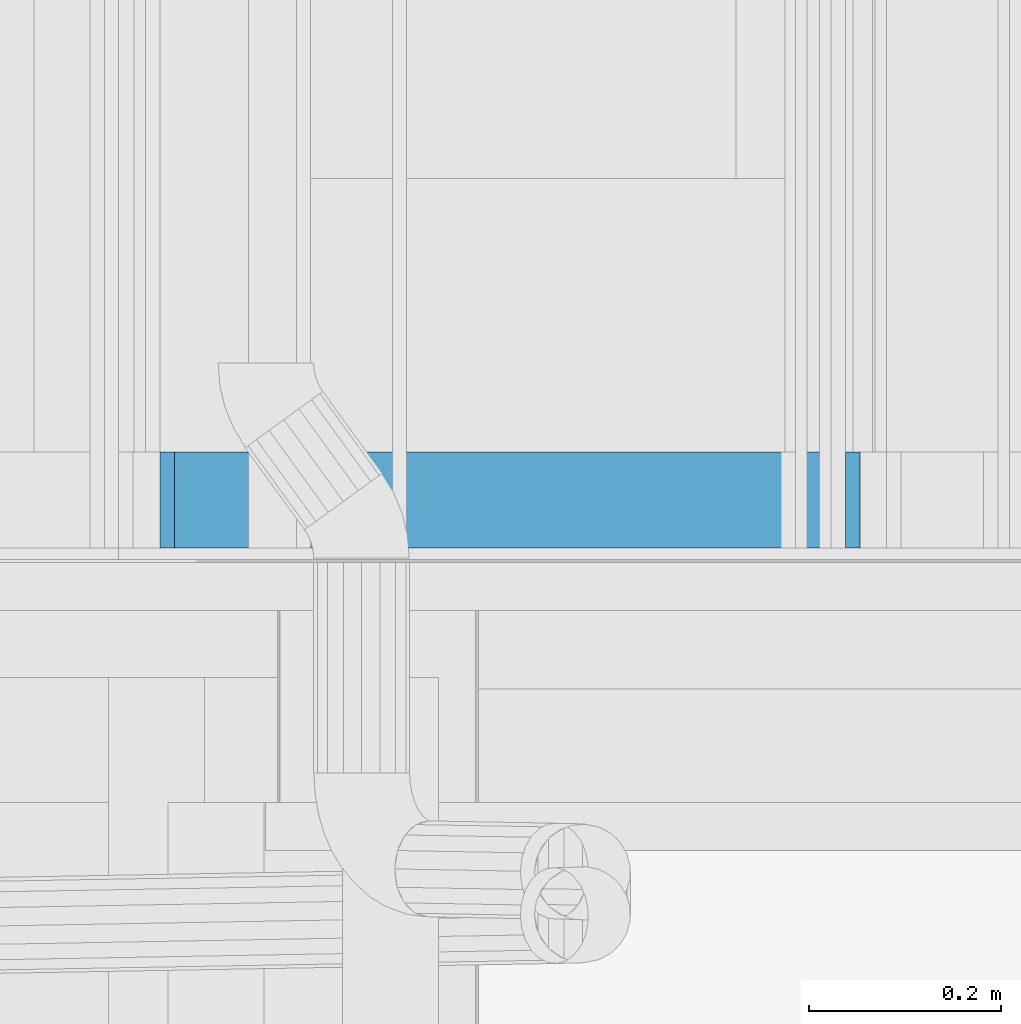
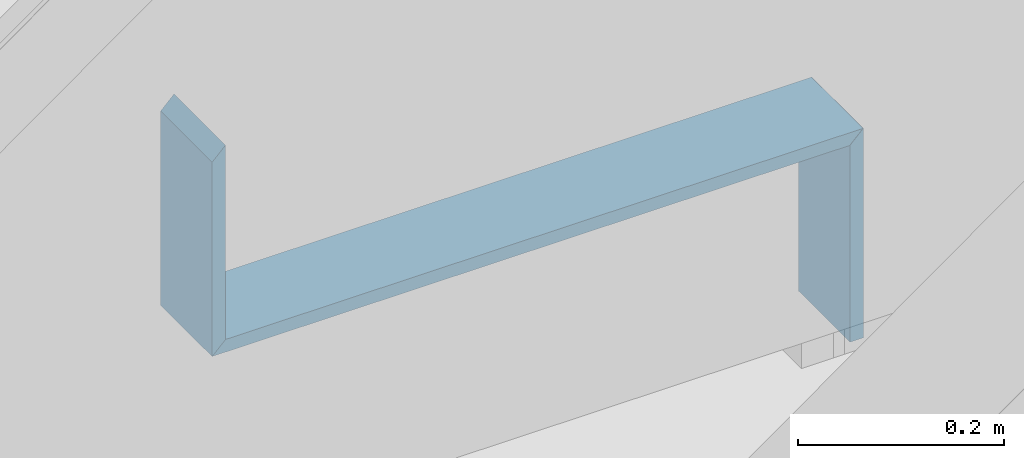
# One storey, part 187 of 583: 3 building element parts, 3 elements without a shape of their own.
"""IFC2X3 building model written with IfcOpenShell, lengths in metres."""

from ifc_helpers import new_model, entity, si_unit, converted_unit, derived_unit, money_unit, direction, frame, origin_with_axes, place, context, subcontext, project, spatial, polyline, outline, extrude, material, type_object, element, aggregate, save


model = new_model("IFC2X3")

# Units and contexts
model_context = context("Model", 3, precision=1e-05, world=origin_with_axes(), true_north=direction((0.0, 1.0)))
body_context = subcontext(model_context, "Body", "Model", "MODEL_VIEW", scale=1.0)
ifc_project = project(units=[si_unit("LENGTHUNIT", "METRE"), si_unit("AREAUNIT", "SQUARE_METRE"), si_unit("VOLUMEUNIT", "CUBIC_METRE"), si_unit("ABSORBEDDOSEUNIT", "GRAY"), si_unit("AMOUNTOFSUBSTANCEUNIT", "MOLE"), si_unit("DOSEEQUIVALENTUNIT", "SIEVERT"), si_unit("ELECTRICCAPACITANCEUNIT", "FARAD"), si_unit("ELECTRICCHARGEUNIT", "COULOMB"), si_unit("ELECTRICCONDUCTANCEUNIT", "SIEMENS"), si_unit("ELECTRICCURRENTUNIT", "AMPERE"), si_unit("ELECTRICRESISTANCEUNIT", "OHM"), si_unit("ELECTRICVOLTAGEUNIT", "VOLT"), si_unit("ENERGYUNIT", "JOULE"), si_unit("FORCEUNIT", "NEWTON"), si_unit("FREQUENCYUNIT", "HERTZ"), si_unit("ILLUMINANCEUNIT", "LUX"), si_unit("INDUCTANCEUNIT", "HENRY"), si_unit("LUMINOUSFLUXUNIT", "LUMEN"), si_unit("LUMINOUSINTENSITYUNIT", "CANDELA"), si_unit("MAGNETICFLUXDENSITYUNIT", "TESLA"), si_unit("MAGNETICFLUXUNIT", "WEBER"), si_unit("MASSUNIT", "GRAM"), converted_unit("PLANEANGLEUNIT", "degree", entity("IfcReal", 0.0174532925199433), si_unit("PLANEANGLEUNIT", "RADIAN"), dimensions=[0, 0, 0, 0, 0, 0, 0]), si_unit("POWERUNIT", "WATT"), si_unit("PRESSUREUNIT", "PASCAL"), si_unit("RADIOACTIVITYUNIT", "BECQUEREL"), si_unit("SOLIDANGLEUNIT", "STERADIAN"), si_unit("THERMODYNAMICTEMPERATUREUNIT", "KELVIN"), si_unit("TIMEUNIT", "SECOND"), derived_unit("ACCELERATIONUNIT", [(si_unit("LENGTHUNIT", "METRE"), 1), (si_unit("TIMEUNIT", "SECOND"), -2)]), derived_unit("ANGULARVELOCITYUNIT", [(converted_unit("PLANEANGLEUNIT", "degree", entity("IfcReal", 0.0174532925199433), si_unit("PLANEANGLEUNIT", "RADIAN"), dimensions=[0, 0, 0, 0, 0, 0, 0]), 1), (si_unit("TIMEUNIT", "SECOND"), -1)]), derived_unit("CURVATUREUNIT", [(converted_unit("PLANEANGLEUNIT", "degree", entity("IfcReal", 0.0174532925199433), si_unit("PLANEANGLEUNIT", "RADIAN"), dimensions=[0, 0, 0, 0, 0, 0, 0]), 1), (si_unit("LENGTHUNIT", "METRE"), -1)]), derived_unit("DYNAMICVISCOSITYUNIT", [(si_unit("PRESSUREUNIT", "PASCAL"), 1), (si_unit("TIMEUNIT", "SECOND"), 1)]), derived_unit("HEATFLUXDENSITYUNIT", [(si_unit("POWERUNIT", "WATT"), 1), (si_unit("LENGTHUNIT", "METRE"), -2)]), derived_unit("HEATINGVALUEUNIT", [(si_unit("ENERGYUNIT", "JOULE"), 1), (si_unit("MASSUNIT", "GRAM"), -1)]), derived_unit("INTEGERCOUNTRATEUNIT", [(si_unit("TIMEUNIT", "SECOND"), -1)]), derived_unit("IONCONCENTRATIONUNIT", [(si_unit("MASSUNIT", "GRAM"), 1), (si_unit("VOLUMEUNIT", "CUBIC_METRE"), -1)]), derived_unit("ISOTHERMALMOISTURECAPACITYUNIT", [(si_unit("VOLUMEUNIT", "CUBIC_METRE"), 1), (si_unit("MASSUNIT", "GRAM"), -1)]), derived_unit("KINEMATICVISCOSITYUNIT", [(si_unit("AREAUNIT", "SQUARE_METRE"), 1), (si_unit("TIMEUNIT", "SECOND"), -1)]), derived_unit("LINEARFORCEUNIT", [(si_unit("FORCEUNIT", "NEWTON"), 1), (si_unit("LENGTHUNIT", "METRE"), -1)]), derived_unit("LINEARMOMENTUNIT", [(si_unit("FORCEUNIT", "NEWTON"), 1), (si_unit("LENGTHUNIT", "METRE"), -1)]), derived_unit("LINEARSTIFFNESSUNIT", [(si_unit("FORCEUNIT", "NEWTON"), 1), (si_unit("LENGTHUNIT", "METRE"), -1)]), derived_unit("LINEARVELOCITYUNIT", [(si_unit("LENGTHUNIT", "METRE"), 1), (si_unit("TIMEUNIT", "SECOND"), -1)]), derived_unit("LUMINOUSINTENSITYDISTRIBUTIONUNIT", [(si_unit("LUMINOUSINTENSITYUNIT", "CANDELA"), 1), (si_unit("LUMINOUSFLUXUNIT", "LUMEN"), -1)]), derived_unit("MASSDENSITYUNIT", [(si_unit("MASSUNIT", "GRAM"), 1), (si_unit("VOLUMEUNIT", "CUBIC_METRE"), -1)]), derived_unit("MASSFLOWRATEUNIT", [(si_unit("MASSUNIT", "GRAM"), 1), (si_unit("TIMEUNIT", "SECOND"), -1)]), derived_unit("MASSPERLENGTHUNIT", [(si_unit("MASSUNIT", "GRAM"), 1), (si_unit("LENGTHUNIT", "METRE"), -1)]), derived_unit("MODULUSOFELASTICITYUNIT", [(si_unit("FORCEUNIT", "NEWTON"), 1), (si_unit("AREAUNIT", "SQUARE_METRE"), -1)]), derived_unit("MODULUSOFLINEARSUBGRADEREACTIONUNIT", [(si_unit("FORCEUNIT", "NEWTON"), 1), (si_unit("LENGTHUNIT", "METRE"), -2)]), derived_unit("MODULUSOFROTATIONALSUBGRADEREACTIONUNIT", [(si_unit("FORCEUNIT", "NEWTON"), 1), (si_unit("LENGTHUNIT", "METRE"), 1)]), derived_unit("MODULUSOFSUBGRADEREACTIONUNIT", [(si_unit("FORCEUNIT", "NEWTON"), 1), (si_unit("VOLUMEUNIT", "CUBIC_METRE"), -1)]), derived_unit("MOISTUREDIFFUSIVITYUNIT", [(si_unit("VOLUMEUNIT", "CUBIC_METRE"), 1), (si_unit("TIMEUNIT", "SECOND"), -1)]), derived_unit("MOLECULARWEIGHTUNIT", [(si_unit("MASSUNIT", "GRAM"), 1), (si_unit("AMOUNTOFSUBSTANCEUNIT", "MOLE"), -1)]), derived_unit("PLANARFORCEUNIT", [(si_unit("FORCEUNIT", "NEWTON"), 1), (si_unit("LENGTHUNIT", "METRE"), -2)]), derived_unit("ROTATIONALFREQUENCYUNIT", [(si_unit("TIMEUNIT", "SECOND"), -1)]), derived_unit("ROTATIONALMASSUNIT", [(si_unit("MASSUNIT", "GRAM"), 1), (si_unit("LENGTHUNIT", "METRE"), 2)]), derived_unit("ROTATIONALSTIFFNESSUNIT", [(si_unit("FORCEUNIT", "NEWTON"), 1), (si_unit("LENGTHUNIT", "METRE"), 1), (converted_unit("PLANEANGLEUNIT", "degree", entity("IfcReal", 0.0174532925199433), si_unit("PLANEANGLEUNIT", "RADIAN"), dimensions=[0, 0, 0, 0, 0, 0, 0]), -1)]), derived_unit("SECTIONAREAINTEGRALUNIT", [(si_unit("LENGTHUNIT", "METRE"), 5)]), derived_unit("SECTIONMODULUSUNIT", [(si_unit("LENGTHUNIT", "METRE"), 3)]), derived_unit("SHEARMODULUSUNIT", [(si_unit("FORCEUNIT", "NEWTON"), 1), (si_unit("AREAUNIT", "SQUARE_METRE"), -1)]), derived_unit("SOUNDPOWERUNIT", [(si_unit("ENERGYUNIT", "JOULE"), 1), (si_unit("TIMEUNIT", "SECOND"), -1)]), derived_unit("SPECIFICHEATCAPACITYUNIT", [(si_unit("FORCEUNIT", "NEWTON"), 1), (si_unit("MASSUNIT", "GRAM"), -1), (si_unit("THERMODYNAMICTEMPERATUREUNIT", "KELVIN"), -1)]), derived_unit("TEMPERATUREGRADIENTUNIT", [(si_unit("THERMODYNAMICTEMPERATUREUNIT", "KELVIN"), 1), (si_unit("LENGTHUNIT", "METRE"), -1)]), derived_unit("THERMALADMITTANCEUNIT", [(si_unit("POWERUNIT", "WATT"), 1), (si_unit("AREAUNIT", "SQUARE_METRE"), -1), (si_unit("THERMODYNAMICTEMPERATUREUNIT", "KELVIN"), -1)]), derived_unit("THERMALCONDUCTANCEUNIT", [(si_unit("POWERUNIT", "WATT"), 1), (si_unit("LENGTHUNIT", "METRE"), -1), (si_unit("THERMODYNAMICTEMPERATUREUNIT", "KELVIN"), -1)]), derived_unit("THERMALEXPANSIONCOEFFICIENTUNIT", [(si_unit("THERMODYNAMICTEMPERATUREUNIT", "KELVIN"), -1)]), derived_unit("THERMALRESISTANCEUNIT", [(si_unit("AREAUNIT", "SQUARE_METRE"), 1), (si_unit("POWERUNIT", "WATT"), -1)]), derived_unit("THERMALTRANSMITTANCEUNIT", [(si_unit("POWERUNIT", "WATT"), 1), (si_unit("AREAUNIT", "SQUARE_METRE"), -1), (si_unit("THERMODYNAMICTEMPERATUREUNIT", "KELVIN"), -1)]), derived_unit("TORQUEUNIT", [(si_unit("FORCEUNIT", "NEWTON"), 1), (si_unit("LENGTHUNIT", "METRE"), 1)]), derived_unit("VAPORPERMEABILITYUNIT", [(si_unit("MASSUNIT", "GRAM"), 1), (si_unit("TIMEUNIT", "SECOND"), -1)]), derived_unit("VOLUMETRICFLOWRATEUNIT", [(si_unit("VOLUMEUNIT", "CUBIC_METRE"), 1), (si_unit("TIMEUNIT", "SECOND"), -1)]), derived_unit("WARPINGCONSTANTUNIT", [(si_unit("LENGTHUNIT", "METRE"), 6)]), derived_unit("WARPINGMOMENTUNIT", [(si_unit("FORCEUNIT", "NEWTON"), 1), (si_unit("LENGTHUNIT", "METRE"), 2)]), money_unit("GBP")], contexts=[model_context])

# Site, building, storey
site_placement = place(None, origin_with_axes())
site = spatial("IfcSite", under=ifc_project, at=site_placement, Name="Site", CompositionType="ELEMENT")
building_placement = place(site_placement, origin_with_axes())
building = spatial("IfcBuilding", under=site, at=building_placement, Name="Building01", CompositionType="ELEMENT")
storey_placement = place(building_placement, frame((0.0, 0.0, 20.78), z_axis=(0.0, 0.0, 1.0), x_axis=(1.0, 0.0, 0.0)))
storey = spatial("IfcBuildingStorey", under=building, at=storey_placement, Name="RL", CompositionType="ELEMENT", Elevation=20.78)

# Wall, building element part
wall_type = type_object("IfcWallType", Name="SHE_A-Walls_Type06f_ExternalWallInsulation_48+15mm", PredefinedType="NOTDEFINED")
wall_1_placement = place(storey_placement, frame((9.53218, 5.15, -20.68), z_axis=(0.0, 1.0, 0.0), x_axis=(0.0, 0.0, 1.0)))
wall_1 = element("IfcWall", 1, at=wall_1_placement, inside=storey, type_object=wall_type, Name="6F", ObjectType="SHE_A-Walls_Type06f_ExternalWallInsulation_48+15mm")
ifc_material = material(Name="A_BSUK_Walls_Timber")
building_element_part_1_placement = place(wall_1_placement, origin_with_axes())
building_element_part_1 = element("IfcBuildingElementPart", 2, at=building_element_part_1_placement, material=ifc_material, Name="2", context=body_context, shape_type="SweptSolid", body=[
    extrude(outline(polyline([(0.248, 0.06), (0.0, 0.06), (0.0, 0.045), (0.233, 0.045), (0.248, 0.06)])), frame((0.0, 0.0, 0.015), z_axis=(0.0, 0.0, 1.0), x_axis=(1.0, 0.0, 0.0)), (0.0, 0.0, 1.0), 0.1),
])
aggregate(wall_1, [building_element_part_1])

wall_2_placement = place(storey_placement, frame((9.53218, 5.15, -20.492), z_axis=(0.0, 1.0, 0.0), x_axis=(-1.0, 0.0, 0.0)))
wall_2 = element("IfcWall", 3, at=wall_2_placement, inside=storey, type_object=wall_type, Name="6F", ObjectType="SHE_A-Walls_Type06f_ExternalWallInsulation_48+15mm")
building_element_part_2_placement = place(wall_2_placement, origin_with_axes())
building_element_part_2 = element("IfcBuildingElementPart", 4, at=building_element_part_2_placement, material=ifc_material, Name="2", context=body_context, shape_type="SweptSolid", body=[
    extrude(outline(polyline([(0.65418, 0.06), (-0.06, 0.06), (-0.045, 0.045), (0.66918, 0.045), (0.65418, 0.06)])), frame((0.0, 0.0, 0.015), z_axis=(0.0, 0.0, 1.0), x_axis=(1.0, 0.0, 0.0)), (0.0, 0.0, 1.0), 0.1),
])
aggregate(wall_2, [building_element_part_2])

wall_3_placement = place(storey_placement, frame((8.818, 5.15, -20.492), z_axis=(0.0, 1.0, 0.0), x_axis=(0.0, 0.0, 1.0)))
wall_3 = element("IfcWall", 5, at=wall_3_placement, inside=storey, type_object=wall_type, Name="6F", ObjectType="SHE_A-Walls_Type06f_ExternalWallInsulation_48+15mm")
building_element_part_3_placement = place(wall_3_placement, origin_with_axes())
building_element_part_3 = element("IfcBuildingElementPart", 6, at=building_element_part_3_placement, material=ifc_material, Name="2", context=body_context, shape_type="SweptSolid", body=[
    extrude(outline(polyline([(0.29, 0.06), (0.06, 0.06), (0.045, 0.045), (0.275, 0.045), (0.29, 0.06)])), frame((0.0, 0.0, 0.015), z_axis=(0.0, 0.0, 1.0), x_axis=(1.0, 0.0, 0.0)), (0.0, 0.0, 1.0), 0.1),
])
aggregate(wall_3, [building_element_part_3])

save(model, "model.ifc")
